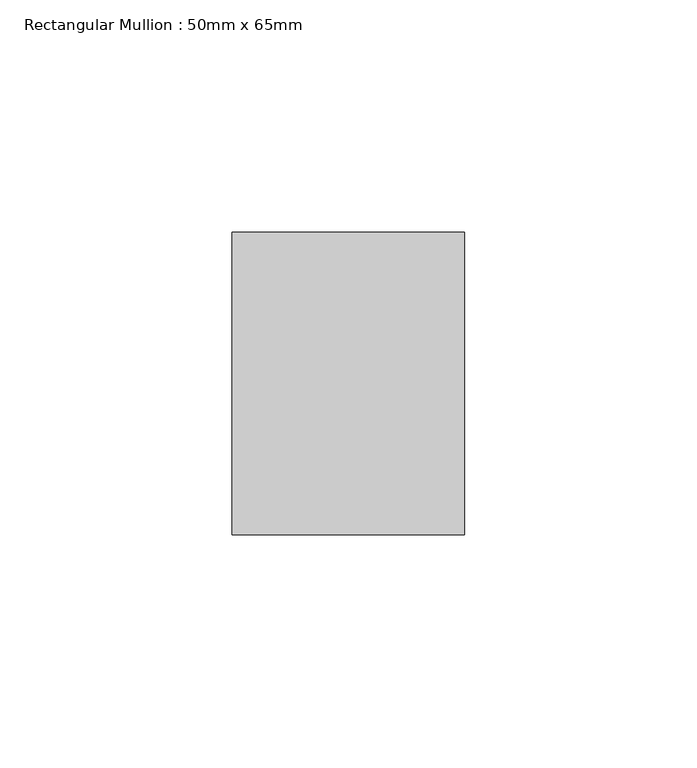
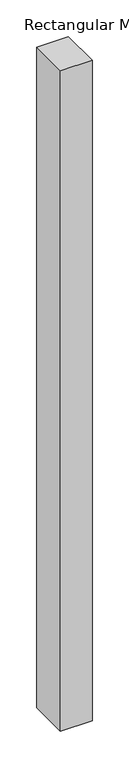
"""IFC4 building model written with IfcOpenShell, lengths in millimetres: member geometry, Rectangular Mullion : 50mm x 65mm."""

from ifc_helpers import new_model, si_unit, frame, origin, place, context, project, spatial, polyline, outline, extrude, source, transform, mapped, element, save


def rectangular_mullion_50mm_x_65mm_3a6a0bf0(model_context):
    return source(origin(), model_context, "Body", "SweptSolid", [
        extrude(outline(polyline([(25.0, 32.5), (25.0, -32.5), (-25.0, -32.5), (-25.0, 32.5), (25.0, 32.5)])), frame((0.0, 0.0, -1099.9999998), z_axis=(0.0, 0.0, 1.0), x_axis=(1.0, 0.0, 0.0)), (0.0, 0.0, 1.0), 1099.9999998),
    ])


if __name__ == "__main__":
    model = new_model("IFC4")
    model_context = context("Model", 3, world=origin())
    ifc_project = project(units=[si_unit("LENGTHUNIT", "METRE", prefix="MILLI")], contexts=[model_context])
    site = spatial("IfcSite", under=ifc_project)
    building = spatial("IfcBuilding", under=site)
    placement = place(None, origin())
    rectangular_mullion_50mm_x_65mm_shape = rectangular_mullion_50mm_x_65mm_3a6a0bf0(model_context)
    element("IfcMember", 1, ObjectType="Rectangular Mullion : 50mm x 65mm", at=placement, inside=building, context=model_context, shape_type="MappedRepresentation", body=[
        mapped(rectangular_mullion_50mm_x_65mm_shape, transform((0.0, 0.0, 0.0), x_axis=(1.0, 0.0, 0.0), y_axis=(0.0, 1.0, 0.0), z_axis=(0.0, 0.0, 1.0))),
    ])
    save(model, "model.ifc")
